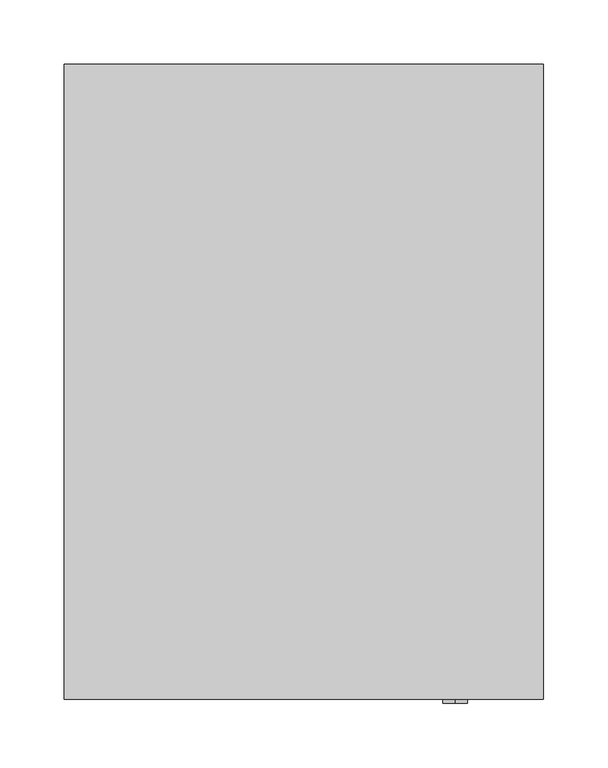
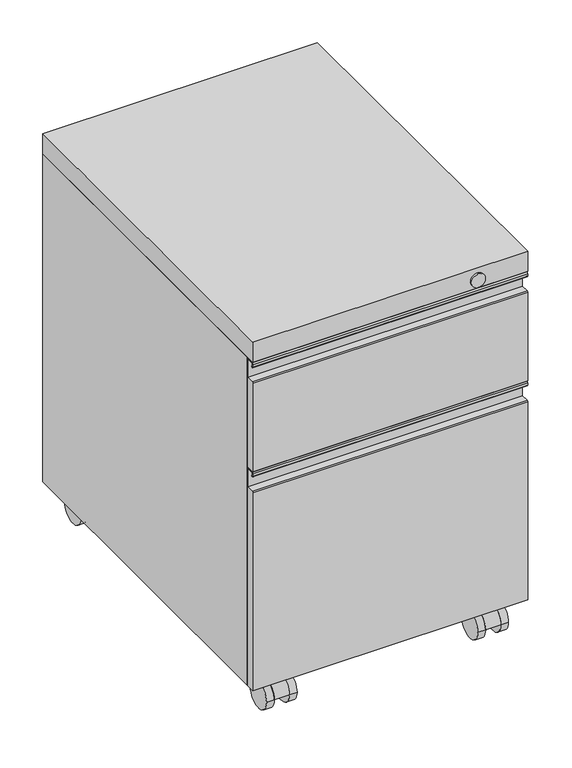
"""IFC4 building model written with IfcOpenShell, lengths in millimetres: furniture geometry, HermanMiller_TuStorage_LW110_W-PullMobilePedestal : 20D BF."""

from ifc_helpers import new_model, si_unit, point, frame, frame_2d, origin, place, context, project, spatial, polyline, circle_curve, trimmed, segment, composite_curve, outline, extrude, source, transform, mapped, element, save
from ifc_brep_helpers import plane_surface, cylinder_surface, advanced_brep


def furniture_11472d89(model_context):
    return source(origin(), model_context, "Body", "SolidModel", [
        extrude(outline(composite_curve([segment(trimmed(circle_curve(frame_2d((-220.6625363, 19.05)), 19.05), [point((-239.7125363, 19.05))], [point((-201.6125363, 19.05))], False, "CARTESIAN"), True, "CONTINUOUS"), segment(polyline([(-201.6125363, 19.05), (-239.7125363, 19.05)]), True, "CONTINUOUS")], self_intersect=False)), frame((132.5562508, 0.0, 0.0), z_axis=(1.0, 0.0, 0.0), x_axis=(0.0, 1.0, 0.0)), (0.0, 0.0, 1.0), 20.6375008),
        extrude(outline(composite_curve([segment(trimmed(circle_curve(frame_2d((142.875, -207.9625303)), 10.3187561), [point((132.5562439, -207.9625303))], [point((153.1937561, -207.9625303))], False, "CARTESIAN"), True, "CONTINUOUS"), segment(trimmed(circle_curve(frame_2d((142.875, -207.9625303)), 10.3187561), [point((153.1937561, -207.9625303))], [point((132.5562439, -207.9625303))], False, "CARTESIAN"), True, "CONTINUOUS")], self_intersect=False)), frame((0.0, 0.0, 19.05), z_axis=(0.0, 0.0, 1.0), x_axis=(1.0, 0.0, 0.0)), (0.0, 0.0, 1.0), 28.575),
        extrude(outline(composite_curve([segment(trimmed(circle_curve(frame_2d((-220.6625363, 19.05)), 19.05), [point((-201.6125363, 19.05))], [point((-239.7125363, 19.05))], False, "CARTESIAN"), True, "CONTINUOUS"), segment(trimmed(circle_curve(frame_2d((-220.6625363, 19.05)), 19.05), [point((-239.7125363, 19.05))], [point((-201.6125363, 19.05))], False, "CARTESIAN"), True, "CONTINUOUS")], self_intersect=False)), frame((153.1937515, 0.0, 0.0), z_axis=(1.0, 0.0, 0.0), x_axis=(0.0, 1.0, 0.0)), (0.0, 0.0, 1.0), 10.318747),
        extrude(outline(composite_curve([segment(trimmed(circle_curve(frame_2d((-220.6625363, 19.05)), 19.05), [point((-201.6125363, 19.05))], [point((-239.7125363, 19.05))], False, "CARTESIAN"), True, "CONTINUOUS"), segment(trimmed(circle_curve(frame_2d((-220.6625363, 19.05)), 19.05), [point((-239.7125363, 19.05))], [point((-201.6125363, 19.05))], False, "CARTESIAN"), True, "CONTINUOUS")], self_intersect=False)), frame((122.2375, 0.0, 0.0), z_axis=(1.0, 0.0, 0.0), x_axis=(0.0, 1.0, 0.0)), (0.0, 0.0, 1.0), 10.3187508),
        extrude(outline(composite_curve([segment(trimmed(circle_curve(frame_2d((-220.6625363, 19.05)), 19.05), [point((-239.7125363, 19.05))], [point((-201.6125363, 19.05))], False, "CARTESIAN"), True, "CONTINUOUS"), segment(polyline([(-201.6125363, 19.05), (-239.7125363, 19.05)]), True, "CONTINUOUS")], self_intersect=False)), frame((-153.1937492, 0.0, 0.0), z_axis=(1.0, 0.0, 0.0), x_axis=(0.0, 1.0, 0.0)), (0.0, 0.0, 1.0), 20.6375008),
        extrude(outline(composite_curve([segment(trimmed(circle_curve(frame_2d((-142.875, -207.9625303)), 10.3187561), [point((-153.1937561, -207.9625303))], [point((-132.5562439, -207.9625303))], False, "CARTESIAN"), True, "CONTINUOUS"), segment(trimmed(circle_curve(frame_2d((-142.875, -207.9625303)), 10.3187561), [point((-132.5562439, -207.9625303))], [point((-153.1937561, -207.9625303))], False, "CARTESIAN"), True, "CONTINUOUS")], self_intersect=False)), frame((0.0, 0.0, 19.05), z_axis=(0.0, 0.0, 1.0), x_axis=(1.0, 0.0, 0.0)), (0.0, 0.0, 1.0), 28.575),
        extrude(outline(composite_curve([segment(trimmed(circle_curve(frame_2d((-220.6625363, 19.05)), 19.05), [point((-201.6125363, 19.05))], [point((-239.7125363, 19.05))], False, "CARTESIAN"), True, "CONTINUOUS"), segment(trimmed(circle_curve(frame_2d((-220.6625363, 19.05)), 19.05), [point((-239.7125363, 19.05))], [point((-201.6125363, 19.05))], False, "CARTESIAN"), True, "CONTINUOUS")], self_intersect=False)), frame((-132.5562485, 0.0, 0.0), z_axis=(1.0, 0.0, 0.0), x_axis=(0.0, 1.0, 0.0)), (0.0, 0.0, 1.0), 10.318747),
        extrude(outline(composite_curve([segment(trimmed(circle_curve(frame_2d((-220.6625363, 19.05)), 19.05), [point((-201.6125363, 19.05))], [point((-239.7125363, 19.05))], False, "CARTESIAN"), True, "CONTINUOUS"), segment(trimmed(circle_curve(frame_2d((-220.6625363, 19.05)), 19.05), [point((-239.7125363, 19.05))], [point((-201.6125363, 19.05))], False, "CARTESIAN"), True, "CONTINUOUS")], self_intersect=False)), frame((-163.5125, 0.0, 0.0), z_axis=(1.0, 0.0, 0.0), x_axis=(0.0, 1.0, 0.0)), (0.0, 0.0, 1.0), 10.3187508),
        extrude(outline(composite_curve([segment(trimmed(circle_curve(frame_2d((214.3124758, 19.05)), 19.05), [point((195.2624758, 19.05))], [point((233.3624758, 19.05))], False, "CARTESIAN"), True, "CONTINUOUS"), segment(polyline([(233.3624758, 19.05), (195.2624758, 19.05)]), True, "CONTINUOUS")], self_intersect=False)), frame((132.5562508, 0.0, 0.0), z_axis=(1.0, 0.0, 0.0), x_axis=(0.0, 1.0, 0.0)), (0.0, 0.0, 1.0), 20.6375008),
        extrude(outline(composite_curve([segment(trimmed(circle_curve(frame_2d((142.875, 227.0124818)), 10.3187561), [point((132.5562439, 227.0124818))], [point((153.1937561, 227.0124818))], False, "CARTESIAN"), True, "CONTINUOUS"), segment(trimmed(circle_curve(frame_2d((142.875, 227.0124818)), 10.3187561), [point((153.1937561, 227.0124818))], [point((132.5562439, 227.0124818))], False, "CARTESIAN"), True, "CONTINUOUS")], self_intersect=False)), frame((0.0, 0.0, 19.05), z_axis=(0.0, 0.0, 1.0), x_axis=(1.0, 0.0, 0.0)), (0.0, 0.0, 1.0), 28.575),
        extrude(outline(composite_curve([segment(trimmed(circle_curve(frame_2d((214.3124758, 19.05)), 19.05), [point((233.3624758, 19.05))], [point((195.2624758, 19.05))], False, "CARTESIAN"), True, "CONTINUOUS"), segment(trimmed(circle_curve(frame_2d((214.3124758, 19.05)), 19.05), [point((195.2624758, 19.05))], [point((233.3624758, 19.05))], False, "CARTESIAN"), True, "CONTINUOUS")], self_intersect=False)), frame((153.1937515, 0.0, 0.0), z_axis=(1.0, 0.0, 0.0), x_axis=(0.0, 1.0, 0.0)), (0.0, 0.0, 1.0), 10.318747),
        extrude(outline(composite_curve([segment(trimmed(circle_curve(frame_2d((214.3124758, 19.05)), 19.05), [point((233.3624758, 19.05))], [point((195.2624758, 19.05))], False, "CARTESIAN"), True, "CONTINUOUS"), segment(trimmed(circle_curve(frame_2d((214.3124758, 19.05)), 19.05), [point((195.2624758, 19.05))], [point((233.3624758, 19.05))], False, "CARTESIAN"), True, "CONTINUOUS")], self_intersect=False)), frame((122.2375, 0.0, 0.0), z_axis=(1.0, 0.0, 0.0), x_axis=(0.0, 1.0, 0.0)), (0.0, 0.0, 1.0), 10.3187508),
        extrude(outline(composite_curve([segment(trimmed(circle_curve(frame_2d((214.3124758, 19.05)), 19.05), [point((195.2624758, 19.05))], [point((233.3624758, 19.05))], False, "CARTESIAN"), True, "CONTINUOUS"), segment(polyline([(233.3624758, 19.05), (195.2624758, 19.05)]), True, "CONTINUOUS")], self_intersect=False)), frame((-153.1937492, 0.0, 0.0), z_axis=(1.0, 0.0, 0.0), x_axis=(0.0, 1.0, 0.0)), (0.0, 0.0, 1.0), 20.6375008),
        extrude(outline(composite_curve([segment(trimmed(circle_curve(frame_2d((-142.875, 227.0124818)), 10.3187561), [point((-153.1937561, 227.0124818))], [point((-132.5562439, 227.0124818))], False, "CARTESIAN"), True, "CONTINUOUS"), segment(trimmed(circle_curve(frame_2d((-142.875, 227.0124818)), 10.3187561), [point((-132.5562439, 227.0124818))], [point((-153.1937561, 227.0124818))], False, "CARTESIAN"), True, "CONTINUOUS")], self_intersect=False)), frame((0.0, 0.0, 19.05), z_axis=(0.0, 0.0, 1.0), x_axis=(1.0, 0.0, 0.0)), (0.0, 0.0, 1.0), 28.575),
        extrude(outline(composite_curve([segment(trimmed(circle_curve(frame_2d((214.3124758, 19.05)), 19.05), [point((233.3624758, 19.05))], [point((195.2624758, 19.05))], False, "CARTESIAN"), True, "CONTINUOUS"), segment(trimmed(circle_curve(frame_2d((214.3124758, 19.05)), 19.05), [point((195.2624758, 19.05))], [point((233.3624758, 19.05))], False, "CARTESIAN"), True, "CONTINUOUS")], self_intersect=False)), frame((-132.5562485, 0.0, 0.0), z_axis=(1.0, 0.0, 0.0), x_axis=(0.0, 1.0, 0.0)), (0.0, 0.0, 1.0), 10.318747),
        extrude(outline(composite_curve([segment(trimmed(circle_curve(frame_2d((214.3124758, 19.05)), 19.05), [point((233.3624758, 19.05))], [point((195.2624758, 19.05))], False, "CARTESIAN"), True, "CONTINUOUS"), segment(trimmed(circle_curve(frame_2d((214.3124758, 19.05)), 19.05), [point((195.2624758, 19.05))], [point((233.3624758, 19.05))], False, "CARTESIAN"), True, "CONTINUOUS")], self_intersect=False)), frame((-163.5125, 0.0, 0.0), z_axis=(1.0, 0.0, 0.0), x_axis=(0.0, 1.0, 0.0)), (0.0, 0.0, 1.0), 10.3187508),
        advanced_brep(
        [(185.7375, -233.3633492, 357.223449), (185.7375, -234.9149123, 358.7750121), (185.7375, -244.2958964, 358.7750121), (185.7375, -245.8467471, 357.2241614), (185.7375, -245.8467471, 353.618431), (185.7375, -243.4675887, 353.7540089), (185.7375, -245.085238, 353.6619142), (185.7375, -245.0854413, 357.2251795), (185.7375, -244.298062, 358.0126314), (185.7375, -234.9127337, 358.0126314), (185.7375, -234.1244845, 357.2224179), (185.7375, -234.1244845, 331.8946895), (185.7375, -244.8905675, 331.8946895), (185.7375, -246.0625, 330.7671367), (185.7375, -246.0625, 47.625), (185.7375, -233.3624516, 47.625), (-185.7375, -233.3624516, 357.2236663), (-185.7375, -233.3624516, 47.625), (-185.7375, -246.0625, 47.625), (-185.7375, -246.0625, 330.7671367), (-185.7375, -244.8905675, 331.8946895), (-185.7375, -234.1244845, 331.8946895), (-185.7375, -234.1244845, 357.2224179), (-185.7375, -234.9127337, 358.0126314), (-185.7375, -244.298062, 358.0126314), (-185.7375, -245.0854413, 357.2251795), (-185.7375, -245.085238, 353.6619142), (-185.7375, -243.4675887, 353.7540089), (-185.7375, -245.8467471, 353.618431), (-185.7375, -245.8467471, 357.2241614), (-185.7375, -244.2958964, 358.7750121), (-185.7375, -234.9149123, 358.7750121)],
        [
            (0, 1, circle_curve(frame((185.7375, -234.9149123, 357.223449), z_axis=(1.0, 0.0, 0.0), x_axis=(0.0, 1.0, 0.0)), 1.5515631)),
            (1, 2),
            (2, 3, circle_curve(frame((185.7375, -244.2958964, 357.2241614), z_axis=(1.0, 0.0, 0.0), x_axis=(0.0, 1.0, 0.0)), 1.5508507)),
            (3, 4),
            (4, 5, circle_curve(frame((185.7375, -244.6533049, 353.618431), z_axis=(1.0, 0.0, 0.0), x_axis=(0.0, 1.0, 0.0)), 1.1934422)),
            (5, 6),
            (6, 7),
            (7, 8),
            (8, 9),
            (9, 10),
            (10, 11),
            (11, 12),
            (12, 13, circle_curve(frame((185.7375, -244.8905675, 330.7218837), z_axis=(1.0, 0.0, 0.0), x_axis=(0.0, 1.0, 0.0)), 1.1728058)),
            (13, 14),
            (14, 15),
            (15, 0),
            (16, 17),
            (17, 18),
            (18, 19),
            (19, 20, circle_curve(frame((-185.7375, -244.8905675, 330.7218837), z_axis=(-1.0, 0.0, 0.0), x_axis=(0.0, 1.0, 0.0)), 1.1728058)),
            (20, 21),
            (21, 22),
            (22, 23),
            (23, 24),
            (24, 25),
            (25, 26),
            (26, 27),
            (27, 28, circle_curve(frame((-185.7375, -244.6533049, 353.618431), z_axis=(-1.0, 0.0, 0.0), x_axis=(0.0, 1.0, 0.0)), 1.1934422)),
            (28, 29),
            (29, 30, circle_curve(frame((-185.7375, -244.2958964, 357.2241614), z_axis=(-1.0, 0.0, 0.0), x_axis=(0.0, 1.0, 0.0)), 1.5508507)),
            (30, 31),
            (31, 16, circle_curve(frame((-185.7375, -234.9149123, 357.223449), z_axis=(-1.0, 0.0, 0.0), x_axis=(0.0, 1.0, 0.0)), 1.5515631)),
            (0, 16),
            (31, 1),
            (30, 2),
            (29, 3),
            (28, 4),
            (27, 5),
            (26, 6),
            (25, 7),
            (24, 8),
            (23, 9),
            (22, 10),
            (21, 11),
            (20, 12),
            (19, 13),
            (18, 14),
            (17, 15),
        ],
        [
            plane_surface(frame((185.7375, -233.3633492, 357.223449), z_axis=(1.0, 0.0, 0.0), x_axis=(0.0, 0.0, 1.0))),
            plane_surface(frame((-185.7375, -233.3633492, 357.223449), z_axis=(-1.0, 0.0, 0.0), x_axis=(0.0, 0.0, -1.0))),
            cylinder_surface(frame((-185.7375, -234.9149123, 357.223449), z_axis=(1.0, 0.0, 0.0), x_axis=(0.0, 1.0, 0.0)), 1.5515631),
            plane_surface(frame((185.7375, -234.9149123, 358.7750121), z_axis=(0.0, 0.0, 1.0), x_axis=(-1.0, 0.0, 0.0))),
            cylinder_surface(frame((-185.7375, -244.2958964, 357.2241614), z_axis=(1.0, 0.0, 0.0), x_axis=(0.0, 1.0, 0.0)), 1.5508507),
            plane_surface(frame((185.7375, -245.8467471, 357.2241614), z_axis=(0.0, -1.0, 0.0), x_axis=(-1.0, 0.0, 0.0))),
            cylinder_surface(frame((-185.7375, -244.6533049, 353.618431), z_axis=(1.0, 0.0, 0.0), x_axis=(0.0, 1.0, 0.0)), 1.1934422),
            plane_surface(frame((185.7375, -243.4675887, 353.7540089), z_axis=(0.0, -0.05683911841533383, 0.9983833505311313), x_axis=(-1.0, 0.0, 0.0))),
            plane_surface(frame((185.7375, -245.085238, 353.6619142), z_axis=(0.0, 0.9999999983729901, 5.704401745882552e-05), x_axis=(-1.0, 0.0, 0.0))),
            plane_surface(frame((185.7375, -245.0854413, 357.2251795), z_axis=(0.0, 0.7071394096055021, -0.7070741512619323), x_axis=(-1.0, 0.0, 0.0))),
            plane_surface(frame((185.7375, -244.298062, 358.0126314), z_axis=(0.0, 0.0, -1.0), x_axis=(-1.0, 0.0, 0.0))),
            plane_surface(frame((185.7375, -234.9127337, 358.0126314), z_axis=(0.0, -0.7079861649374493, -0.7062263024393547), x_axis=(-1.0, 0.0, 0.0))),
            plane_surface(frame((185.7375, -234.1244845, 357.2224179), z_axis=(0.0, -1.0, 0.0), x_axis=(-1.0, 0.0, 0.0))),
            plane_surface(frame((185.7375, -234.1244845, 331.8946895), z_axis=(0.0, 0.0, 1.0), x_axis=(-1.0, 0.0, 0.0))),
            cylinder_surface(frame((-185.7375, -244.8905675, 330.7218837), z_axis=(1.0, 0.0, 0.0), x_axis=(0.0, 1.0, 0.0)), 1.1728058),
            plane_surface(frame((185.7375, -246.0625, 330.7671367), z_axis=(0.0, -1.0, 0.0), x_axis=(-1.0, 0.0, 0.0))),
            plane_surface(frame((185.7375, -246.0625, 47.625), z_axis=(0.0, 0.0, -1.0), x_axis=(-1.0, 0.0, 0.0))),
            plane_surface(frame((185.7375, -233.3624516, 47.625), z_axis=(0.0, 1.0, 0.0), x_axis=(-1.0, 0.0, 0.0))),
        ],
        [
            (0, [[1, 2, 3, 4, 5, 6, 7, 8, 9, 10, 11, 12, 13, 14, 15, 16]]),
            (1, [[17, 18, 19, 20, 21, 22, 23, 24, 25, 26, 27, 28, 29, 30, 31, 32]]),
            (2, [[-1, 33, -32, 34]]),
            (3, [[-2, -34, -31, 35]]),
            (4, [[-3, -35, -30, 36]]),
            (5, [[-4, -36, -29, 37]]),
            (6, [[-5, -37, -28, 38]]),
            (7, [[-6, -38, -27, 39]]),
            (8, [[-7, -39, -26, 40]]),
            (9, [[-8, -40, -25, 41]]),
            (10, [[-9, -41, -24, 42]]),
            (11, [[-10, -42, -23, 43]]),
            (12, [[-11, -43, -22, 44]]),
            (13, [[-12, -44, -21, 45]]),
            (14, [[-13, -45, -20, 46]]),
            (15, [[-14, -46, -19, 47]]),
            (16, [[-15, -47, -18, 48]]),
            (17, [[-16, -48, -17, -33]]),
        ],
    ),
        advanced_brep(
        [(185.7375, -233.3633492, 513.5921748), (185.7375, -234.9149123, 515.1437379), (185.7375, -244.2958964, 515.1437379), (185.7375, -245.8467471, 513.5928872), (185.7375, -245.8467471, 509.9871681), (185.7375, -243.4675887, 510.122746), (185.7375, -245.085238, 510.0306514), (185.7375, -245.0854413, 513.5939166), (185.7375, -244.298062, 514.3813686), (185.7375, -234.9127337, 514.3813686), (185.7375, -234.1244845, 513.5911551), (185.7375, -234.1244845, 488.2634266), (185.7375, -244.8905675, 488.2634266), (185.7375, -246.0625, 487.1358739), (185.7375, -246.0625, 360.3624992), (185.7375, -233.3624516, 360.3624992), (-185.7375, -233.3624516, 513.5924035), (-185.7375, -233.3624516, 360.3624992), (-185.7375, -246.0625, 360.3624992), (-185.7375, -246.0625, 487.1358739), (-185.7375, -244.8905675, 488.2634266), (-185.7375, -234.1244845, 488.2634266), (-185.7375, -234.1244845, 513.5911551), (-185.7375, -234.9127337, 514.3813686), (-185.7375, -244.298062, 514.3813686), (-185.7375, -245.0854413, 513.5939166), (-185.7375, -245.085238, 510.0306514), (-185.7375, -243.4675887, 510.122746), (-185.7375, -245.8467471, 509.9871681), (-185.7375, -245.8467471, 513.5928872), (-185.7375, -244.2958964, 515.1437379), (-185.7375, -234.9149123, 515.1437379)],
        [
            (0, 1, circle_curve(frame((185.7375, -234.9149123, 513.5921748), z_axis=(1.0, 0.0, 0.0), x_axis=(0.0, 1.0, 0.0)), 1.5515631)),
            (1, 2),
            (2, 3, circle_curve(frame((185.7375, -244.2958964, 513.5928872), z_axis=(1.0, 0.0, 0.0), x_axis=(0.0, 1.0, 0.0)), 1.5508507)),
            (3, 4),
            (4, 5, circle_curve(frame((185.7375, -244.6533049, 509.9871681), z_axis=(1.0, 0.0, 0.0), x_axis=(0.0, 1.0, 0.0)), 1.1934422)),
            (5, 6),
            (6, 7),
            (7, 8),
            (8, 9),
            (9, 10),
            (10, 11),
            (11, 12),
            (12, 13, circle_curve(frame((185.7375, -244.8905675, 487.0906208), z_axis=(1.0, 0.0, 0.0), x_axis=(0.0, 1.0, 0.0)), 1.1728058)),
            (13, 14),
            (14, 15),
            (15, 0),
            (16, 17),
            (17, 18),
            (18, 19),
            (19, 20, circle_curve(frame((-185.7375, -244.8905675, 487.0906208), z_axis=(-1.0, 0.0, 0.0), x_axis=(0.0, 1.0, 0.0)), 1.1728058)),
            (20, 21),
            (21, 22),
            (22, 23),
            (23, 24),
            (24, 25),
            (25, 26),
            (26, 27),
            (27, 28, circle_curve(frame((-185.7375, -244.6533049, 509.9871681), z_axis=(-1.0, 0.0, 0.0), x_axis=(0.0, 1.0, 0.0)), 1.1934422)),
            (28, 29),
            (29, 30, circle_curve(frame((-185.7375, -244.2958964, 513.5928872), z_axis=(-1.0, 0.0, 0.0), x_axis=(0.0, 1.0, 0.0)), 1.5508507)),
            (30, 31),
            (31, 16, circle_curve(frame((-185.7375, -234.9149123, 513.5921748), z_axis=(-1.0, 0.0, 0.0), x_axis=(0.0, 1.0, 0.0)), 1.5515631)),
            (0, 16),
            (31, 1),
            (30, 2),
            (29, 3),
            (28, 4),
            (27, 5),
            (26, 6),
            (25, 7),
            (24, 8),
            (23, 9),
            (22, 10),
            (21, 11),
            (20, 12),
            (19, 13),
            (18, 14),
            (17, 15),
        ],
        [
            plane_surface(frame((185.7375, -233.3633492, 513.5921748), z_axis=(1.0, 0.0, 0.0), x_axis=(0.0, 0.0, 1.0))),
            plane_surface(frame((-185.7375, -233.3633492, 513.5921748), z_axis=(-1.0, 0.0, 0.0), x_axis=(0.0, 0.0, -1.0))),
            cylinder_surface(frame((-185.7375, -234.9149123, 513.5921748), z_axis=(1.0, 0.0, 0.0), x_axis=(0.0, 1.0, 0.0)), 1.5515631),
            plane_surface(frame((185.7375, -234.9149123, 515.1437379), z_axis=(0.0, 0.0, 1.0), x_axis=(-1.0, 0.0, 0.0))),
            cylinder_surface(frame((-185.7375, -244.2958964, 513.5928872), z_axis=(1.0, 0.0, 0.0), x_axis=(0.0, 1.0, 0.0)), 1.5508507),
            plane_surface(frame((185.7375, -245.8467471, 513.5928872), z_axis=(0.0, -1.0, 0.0), x_axis=(-1.0, 0.0, 0.0))),
            cylinder_surface(frame((-185.7375, -244.6533049, 509.9871681), z_axis=(1.0, 0.0, 0.0), x_axis=(0.0, 1.0, 0.0)), 1.1934422),
            plane_surface(frame((185.7375, -243.4675887, 510.122746), z_axis=(0.0, -0.05683911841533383, 0.9983833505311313), x_axis=(-1.0, 0.0, 0.0))),
            plane_surface(frame((185.7375, -245.085238, 510.0306514), z_axis=(0.0, 0.9999999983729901, 5.704401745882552e-05), x_axis=(-1.0, 0.0, 0.0))),
            plane_surface(frame((185.7375, -245.0854413, 513.5939166), z_axis=(0.0, 0.7071394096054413, -0.707074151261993), x_axis=(-1.0, 0.0, 0.0))),
            plane_surface(frame((185.7375, -244.298062, 514.3813686), z_axis=(0.0, 0.0, -1.0), x_axis=(-1.0, 0.0, 0.0))),
            plane_surface(frame((185.7375, -234.9127337, 514.3813686), z_axis=(0.0, -0.7079861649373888, -0.7062263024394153), x_axis=(-1.0, 0.0, 0.0))),
            plane_surface(frame((185.7375, -234.1244845, 513.5911551), z_axis=(0.0, -1.0, 0.0), x_axis=(-1.0, 0.0, 0.0))),
            plane_surface(frame((185.7375, -234.1244845, 488.2634266), z_axis=(0.0, 0.0, 1.0), x_axis=(-1.0, 0.0, 0.0))),
            cylinder_surface(frame((-185.7375, -244.8905675, 487.0906208), z_axis=(1.0, 0.0, 0.0), x_axis=(0.0, 1.0, 0.0)), 1.1728058),
            plane_surface(frame((185.7375, -246.0625, 487.1358739), z_axis=(0.0, -1.0, 0.0), x_axis=(-1.0, 0.0, 0.0))),
            plane_surface(frame((185.7375, -246.0625, 360.3624992), z_axis=(0.0, 0.0, -1.0), x_axis=(-1.0, 0.0, 0.0))),
            plane_surface(frame((185.7375, -233.3624516, 360.3624992), z_axis=(0.0, 1.0, 0.0), x_axis=(-1.0, 0.0, 0.0))),
        ],
        [
            (0, [[1, 2, 3, 4, 5, 6, 7, 8, 9, 10, 11, 12, 13, 14, 15, 16]]),
            (1, [[17, 18, 19, 20, 21, 22, 23, 24, 25, 26, 27, 28, 29, 30, 31, 32]]),
            (2, [[-1, 33, -32, 34]]),
            (3, [[-2, -34, -31, 35]]),
            (4, [[-3, -35, -30, 36]]),
            (5, [[-4, -36, -29, 37]]),
            (6, [[-5, -37, -28, 38]]),
            (7, [[-6, -38, -27, 39]]),
            (8, [[-7, -39, -26, 40]]),
            (9, [[-8, -40, -25, 41]]),
            (10, [[-9, -41, -24, 42]]),
            (11, [[-10, -42, -23, 43]]),
            (12, [[-11, -43, -22, 44]]),
            (13, [[-12, -44, -21, 45]]),
            (14, [[-13, -45, -20, 46]]),
            (15, [[-14, -46, -19, 47]]),
            (16, [[-15, -47, -18, 48]]),
            (17, [[-16, -48, -17, -33]]),
        ],
    ),
        extrude(outline(polyline([(185.7375, 246.0625), (185.7375, -246.0625), (-185.7375, -246.0625), (-185.7375, 246.0625), (185.7375, 246.0625)])), frame((0.0, 0.0, 516.7376), z_axis=(0.0, 0.0, 1.0), x_axis=(1.0, 0.0, 0.0)), (0.0, 0.0, 1.0), 28.575),
        extrude(outline(polyline([(185.7375, 246.0625), (185.7375, -233.3624516), (-185.7375, -233.3624516), (-185.7375, 246.0625), (185.7375, 246.0625)])), frame((0.0, 0.0, 47.625), z_axis=(0.0, 0.0, 1.0), x_axis=(1.0, 0.0, 0.0)), (0.0, 0.0, 1.0), 469.1126),
        extrude(outline(composite_curve([segment(trimmed(circle_curve(frame_2d((529.4376, 117.4750242)), 9.525), [point((519.9126, 117.4750242))], [point((538.9626, 117.4750242))], False, "CARTESIAN"), True, "CONTINUOUS"), segment(trimmed(circle_curve(frame_2d((529.4376, 117.4750242)), 9.525), [point((538.9626, 117.4750242))], [point((519.9126, 117.4750242))], False, "CARTESIAN"), True, "CONTINUOUS")], self_intersect=False)), frame((0.0, -249.2374879, 0.0), z_axis=(0.0, 1.0, 0.0), x_axis=(0.0, 0.0, 1.0)), (0.0, 0.0, 1.0), 3.1749879),
    ])


if __name__ == "__main__":
    model = new_model("IFC4")
    model_context = context("Model", 3, world=origin())
    ifc_project = project(units=[si_unit("LENGTHUNIT", "METRE", prefix="MILLI")], contexts=[model_context])
    site = spatial("IfcSite", under=ifc_project)
    building = spatial("IfcBuilding", under=site)
    placement = place(None, origin())
    furniture_shape = furniture_11472d89(model_context)
    element("IfcFurniture", 1, ObjectType="HermanMiller_TuStorage_LW110_W-PullMobilePedestal : 20D BF", at=placement, inside=building, context=model_context, shape_type="MappedRepresentation", body=[
        mapped(furniture_shape, transform((0.0, 0.0, 0.0), x_axis=(1.0, 0.0, 0.0), y_axis=(0.0, 1.0, 0.0), z_axis=(0.0, 0.0, 1.0))),
    ])
    save(model, "model.ifc")
